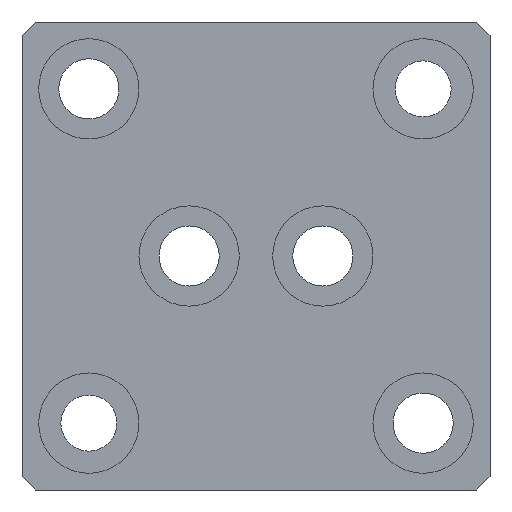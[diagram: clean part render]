
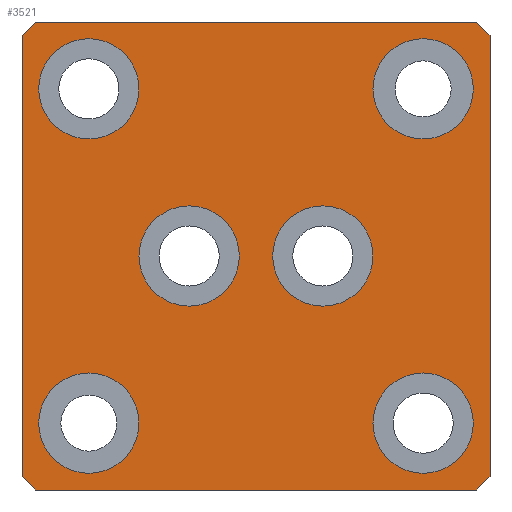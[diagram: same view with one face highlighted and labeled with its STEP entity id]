
A CAD part, front view. The second image highlights one B-rep face of the part: STEP entity #3521.
In plain terms, the highlighted planar face has unit normal (0, -1, 0).
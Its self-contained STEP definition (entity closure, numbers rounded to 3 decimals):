
#36=CIRCLE('',#3635,7.5);
#37=CIRCLE('',#3636,7.5);
#41=CIRCLE('',#3643,7.5);
#42=CIRCLE('',#3644,7.5);
#46=CIRCLE('',#3651,7.5);
#47=CIRCLE('',#3652,7.5);
#51=CIRCLE('',#3659,7.5);
#52=CIRCLE('',#3660,7.5);
#56=CIRCLE('',#3667,7.5);
#57=CIRCLE('',#3668,7.5);
#61=CIRCLE('',#3675,7.5);
#62=CIRCLE('',#3676,7.5);
#91=FACE_BOUND('',#740,.T.);
#92=FACE_BOUND('',#741,.T.);
#93=FACE_BOUND('',#742,.T.);
#94=FACE_BOUND('',#743,.T.);
#95=FACE_BOUND('',#744,.T.);
#96=FACE_BOUND('',#745,.T.);
#522=FACE_OUTER_BOUND('',#739,.T.);
#739=EDGE_LOOP('',(#3215,#3216,#3217,#3218,#3219,#3220,#3221,#3222));
#740=EDGE_LOOP('',(#3223,#3224));
#741=EDGE_LOOP('',(#3225,#3226));
#742=EDGE_LOOP('',(#3227,#3228));
#743=EDGE_LOOP('',(#3229,#3230));
#744=EDGE_LOOP('',(#3231,#3232));
#745=EDGE_LOOP('',(#3233,#3234));
#1044=LINE('',#6331,#1357);
#1047=LINE('',#6336,#1360);
#1049=LINE('',#6342,#1362);
#1051=LINE('',#6346,#1364);
#1053=LINE('',#6350,#1366);
#1056=LINE('',#6355,#1369);
#1057=LINE('',#6357,#1370);
#1058=LINE('',#6359,#1371);
#1357=VECTOR('',#4262,10.);
#1360=VECTOR('',#4267,10.);
#1362=VECTOR('',#4273,10.);
#1364=VECTOR('',#4277,10.);
#1366=VECTOR('',#4281,10.);
#1369=VECTOR('',#4286,10.);
#1370=VECTOR('',#4289,10.);
#1371=VECTOR('',#4292,10.);
#1679=VERTEX_POINT('',#6245);
#1680=VERTEX_POINT('',#6246);
#1684=VERTEX_POINT('',#6260);
#1685=VERTEX_POINT('',#6261);
#1689=VERTEX_POINT('',#6275);
#1690=VERTEX_POINT('',#6276);
#1694=VERTEX_POINT('',#6290);
#1695=VERTEX_POINT('',#6291);
#1699=VERTEX_POINT('',#6305);
#1700=VERTEX_POINT('',#6306);
#1704=VERTEX_POINT('',#6320);
#1705=VERTEX_POINT('',#6321);
#1706=VERTEX_POINT('',#6328);
#1707=VERTEX_POINT('',#6330);
#1708=VERTEX_POINT('',#6334);
#1709=VERTEX_POINT('',#6339);
#1710=VERTEX_POINT('',#6341);
#1711=VERTEX_POINT('',#6345);
#1712=VERTEX_POINT('',#6349);
#1713=VERTEX_POINT('',#6353);
#2166=EDGE_CURVE('',#1679,#1680,#36,.T.);
#2167=EDGE_CURVE('',#1680,#1679,#37,.T.);
#2173=EDGE_CURVE('',#1684,#1685,#41,.T.);
#2174=EDGE_CURVE('',#1685,#1684,#42,.T.);
#2180=EDGE_CURVE('',#1689,#1690,#46,.T.);
#2181=EDGE_CURVE('',#1690,#1689,#47,.T.);
#2187=EDGE_CURVE('',#1694,#1695,#51,.T.);
#2188=EDGE_CURVE('',#1695,#1694,#52,.T.);
#2194=EDGE_CURVE('',#1699,#1700,#56,.T.);
#2195=EDGE_CURVE('',#1700,#1699,#57,.T.);
#2201=EDGE_CURVE('',#1704,#1705,#61,.T.);
#2202=EDGE_CURVE('',#1705,#1704,#62,.T.);
#2206=EDGE_CURVE('',#1706,#1707,#1044,.T.);
#2209=EDGE_CURVE('',#1706,#1708,#1047,.T.);
#2211=EDGE_CURVE('',#1709,#1710,#1049,.T.);
#2213=EDGE_CURVE('',#1711,#1710,#1051,.T.);
#2215=EDGE_CURVE('',#1711,#1712,#1053,.T.);
#2218=EDGE_CURVE('',#1713,#1708,#1056,.T.);
#2219=EDGE_CURVE('',#1713,#1712,#1057,.T.);
#2220=EDGE_CURVE('',#1709,#1707,#1058,.T.);
#3215=ORIENTED_EDGE('',*,*,#2206,.F.);
#3216=ORIENTED_EDGE('',*,*,#2209,.T.);
#3217=ORIENTED_EDGE('',*,*,#2218,.F.);
#3218=ORIENTED_EDGE('',*,*,#2219,.T.);
#3219=ORIENTED_EDGE('',*,*,#2215,.F.);
#3220=ORIENTED_EDGE('',*,*,#2213,.T.);
#3221=ORIENTED_EDGE('',*,*,#2211,.F.);
#3222=ORIENTED_EDGE('',*,*,#2220,.T.);
#3223=ORIENTED_EDGE('',*,*,#2166,.T.);
#3224=ORIENTED_EDGE('',*,*,#2167,.T.);
#3225=ORIENTED_EDGE('',*,*,#2173,.T.);
#3226=ORIENTED_EDGE('',*,*,#2174,.T.);
#3227=ORIENTED_EDGE('',*,*,#2180,.T.);
#3228=ORIENTED_EDGE('',*,*,#2181,.T.);
#3229=ORIENTED_EDGE('',*,*,#2187,.T.);
#3230=ORIENTED_EDGE('',*,*,#2188,.T.);
#3231=ORIENTED_EDGE('',*,*,#2194,.T.);
#3232=ORIENTED_EDGE('',*,*,#2195,.T.);
#3233=ORIENTED_EDGE('',*,*,#2201,.T.);
#3234=ORIENTED_EDGE('',*,*,#2202,.T.);
#3332=PLANE('',#3687);
#3521=ADVANCED_FACE('',(#522,#91,#92,#93,#94,#95,#96),#3332,.F.);
#3635=AXIS2_PLACEMENT_3D('',#6247,#4161,#4162);
#3636=AXIS2_PLACEMENT_3D('',#6248,#4163,#4164);
#3643=AXIS2_PLACEMENT_3D('',#6262,#4179,#4180);
#3644=AXIS2_PLACEMENT_3D('',#6263,#4181,#4182);
#3651=AXIS2_PLACEMENT_3D('',#6277,#4197,#4198);
#3652=AXIS2_PLACEMENT_3D('',#6278,#4199,#4200);
#3659=AXIS2_PLACEMENT_3D('',#6292,#4215,#4216);
#3660=AXIS2_PLACEMENT_3D('',#6293,#4217,#4218);
#3667=AXIS2_PLACEMENT_3D('',#6307,#4233,#4234);
#3668=AXIS2_PLACEMENT_3D('',#6308,#4235,#4236);
#3675=AXIS2_PLACEMENT_3D('',#6322,#4251,#4252);
#3676=AXIS2_PLACEMENT_3D('',#6323,#4253,#4254);
#3687=AXIS2_PLACEMENT_3D('',#6360,#4293,#4294);
#4161=DIRECTION('center_axis',(0.,1.,0.));
#4162=DIRECTION('ref_axis',(-1.,0.,0.));
#4163=DIRECTION('center_axis',(0.,1.,0.));
#4164=DIRECTION('ref_axis',(-1.,0.,0.));
#4179=DIRECTION('center_axis',(0.,1.,0.));
#4180=DIRECTION('ref_axis',(-1.,0.,0.));
#4181=DIRECTION('center_axis',(0.,1.,0.));
#4182=DIRECTION('ref_axis',(-1.,0.,0.));
#4197=DIRECTION('center_axis',(0.,1.,0.));
#4198=DIRECTION('ref_axis',(-1.,0.,0.));
#4199=DIRECTION('center_axis',(0.,1.,0.));
#4200=DIRECTION('ref_axis',(-1.,0.,0.));
#4215=DIRECTION('center_axis',(0.,1.,0.));
#4216=DIRECTION('ref_axis',(-1.,0.,0.));
#4217=DIRECTION('center_axis',(0.,1.,0.));
#4218=DIRECTION('ref_axis',(-1.,0.,0.));
#4233=DIRECTION('center_axis',(0.,1.,0.));
#4234=DIRECTION('ref_axis',(1.,0.,0.));
#4235=DIRECTION('center_axis',(0.,1.,0.));
#4236=DIRECTION('ref_axis',(1.,0.,0.));
#4251=DIRECTION('center_axis',(0.,1.,0.));
#4252=DIRECTION('ref_axis',(1.,0.,0.));
#4253=DIRECTION('center_axis',(0.,1.,0.));
#4254=DIRECTION('ref_axis',(1.,0.,0.));
#4262=DIRECTION('',(0.707,0.,-0.707));
#4267=DIRECTION('',(-1.,0.,0.));
#4273=DIRECTION('',(-0.707,0.,-0.707));
#4277=DIRECTION('',(1.,0.,0.));
#4281=DIRECTION('',(-0.707,0.,0.707));
#4286=DIRECTION('',(0.707,0.,0.707));
#4289=DIRECTION('',(0.,0.,-1.));
#4292=DIRECTION('',(0.,0.,1.));
#4293=DIRECTION('center_axis',(0.,1.,0.));
#4294=DIRECTION('ref_axis',(0.,0.,1.));
#6245=CARTESIAN_POINT('',(-67.5,0.,-10.));
#6246=CARTESIAN_POINT('',(-52.5,0.,-10.));
#6247=CARTESIAN_POINT('Origin',(-60.,0.,-10.));
#6248=CARTESIAN_POINT('Origin',(-60.,0.,-10.));
#6260=CARTESIAN_POINT('',(-17.5,0.,-60.));
#6261=CARTESIAN_POINT('',(-2.5,0.,-60.));
#6262=CARTESIAN_POINT('Origin',(-10.,0.,-60.));
#6263=CARTESIAN_POINT('Origin',(-10.,0.,-60.));
#6275=CARTESIAN_POINT('',(-67.5,0.,-60.));
#6276=CARTESIAN_POINT('',(-52.5,0.,-60.));
#6277=CARTESIAN_POINT('Origin',(-60.,0.,-60.));
#6278=CARTESIAN_POINT('Origin',(-60.,0.,-60.));
#6290=CARTESIAN_POINT('',(-17.5,0.,-10.));
#6291=CARTESIAN_POINT('',(-2.5,0.,-10.));
#6292=CARTESIAN_POINT('Origin',(-10.,0.,-10.));
#6293=CARTESIAN_POINT('Origin',(-10.,0.,-10.));
#6305=CARTESIAN_POINT('',(-37.5,0.,-35.));
#6306=CARTESIAN_POINT('',(-52.5,0.,-35.));
#6307=CARTESIAN_POINT('Origin',(-45.,0.,-35.));
#6308=CARTESIAN_POINT('Origin',(-45.,0.,-35.));
#6320=CARTESIAN_POINT('',(-17.5,0.,-35.));
#6321=CARTESIAN_POINT('',(-32.5,0.,-35.));
#6322=CARTESIAN_POINT('Origin',(-25.,0.,-35.));
#6323=CARTESIAN_POINT('Origin',(-25.,0.,-35.));
#6328=CARTESIAN_POINT('',(-2.,0.,0.));
#6330=CARTESIAN_POINT('',(0.,0.,-2.));
#6331=CARTESIAN_POINT('',(-1.,0.,-1.));
#6334=CARTESIAN_POINT('',(-68.,0.,0.));
#6336=CARTESIAN_POINT('',(0.,0.,0.));
#6339=CARTESIAN_POINT('',(0.,0.,-68.));
#6341=CARTESIAN_POINT('',(-2.,0.,-70.));
#6342=CARTESIAN_POINT('',(-1.,0.,-69.));
#6345=CARTESIAN_POINT('',(-68.,0.,-70.));
#6346=CARTESIAN_POINT('',(-70.,0.,-70.));
#6349=CARTESIAN_POINT('',(-70.,0.,-68.));
#6350=CARTESIAN_POINT('',(-69.,0.,-69.));
#6353=CARTESIAN_POINT('',(-70.,0.,-2.));
#6355=CARTESIAN_POINT('',(-69.,0.,-1.));
#6357=CARTESIAN_POINT('',(-70.,0.,0.));
#6359=CARTESIAN_POINT('',(0.,0.,-70.));
#6360=CARTESIAN_POINT('Origin',(-35.,0.,-35.));
